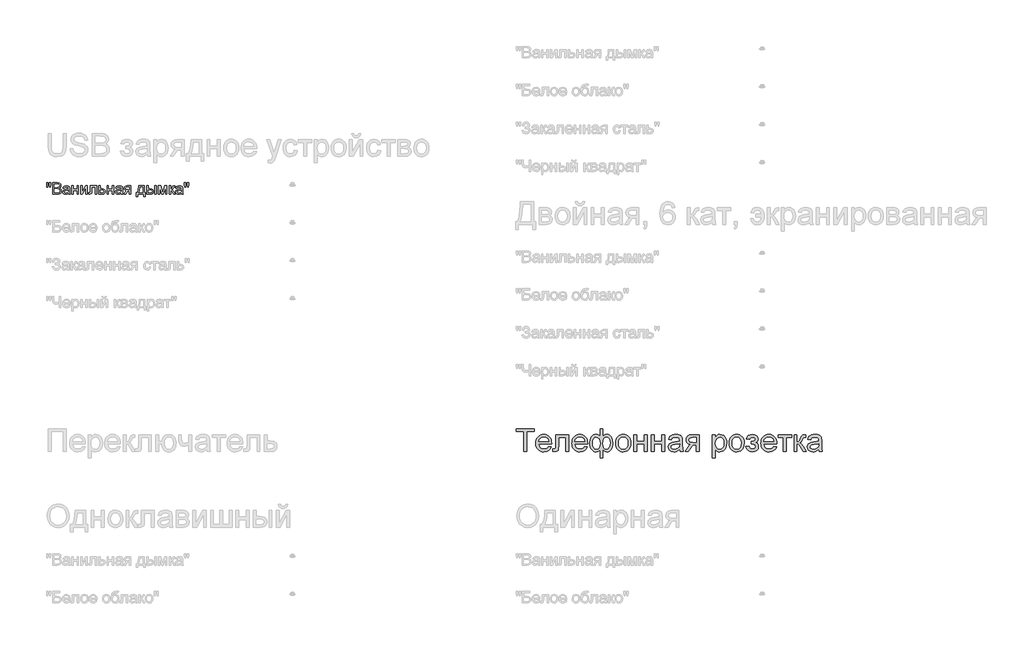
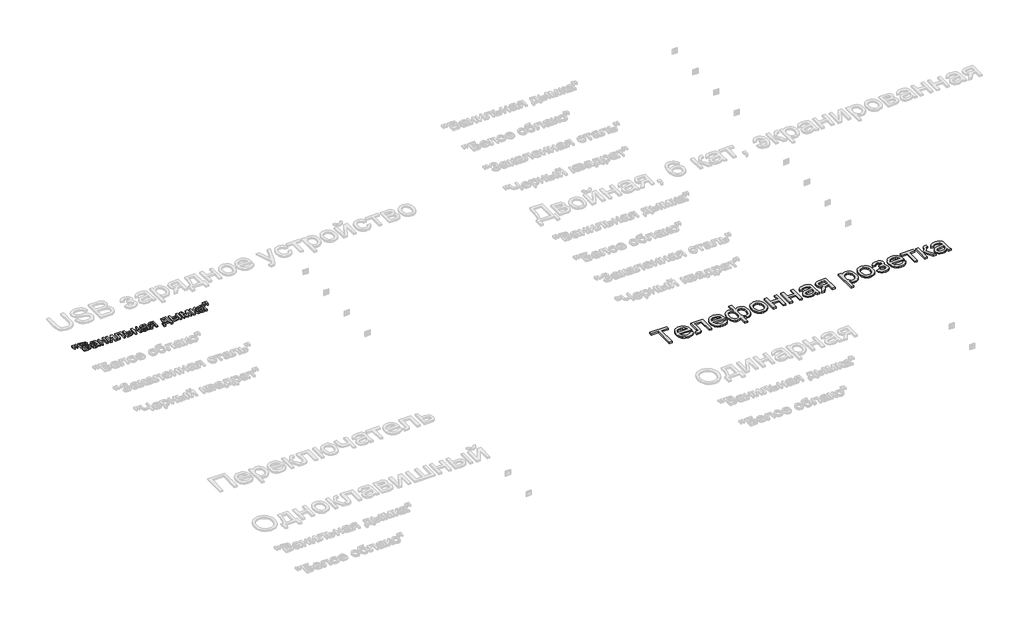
# One storey, part 145 of 168: 2 proxies.
"""IFC4 building model written with IfcOpenShell, lengths in millimetres."""

from ifc_helpers import new_model, si_unit, origin, origin_with_axes, place, context, project, spatial, polyline, outline, extrude, element, save

model = new_model("IFC4")

# Units and contexts
model_context = context("Model", 3, world=origin())
ifc_project = project(units=[si_unit("LENGTHUNIT", "METRE", prefix="MILLI")], contexts=[model_context])

# Site, building, storey
site = spatial("IfcSite", under=ifc_project)
building = spatial("IfcBuilding", under=site)
storey = spatial("IfcBuildingStorey", under=building, Name="Этаж 01", Elevation=0.0)

# Proxies
placement = place(None, origin())
element("IfcBuildingElementProxy", 1, Name="300 мм Arial 2", ObjectType="300 мм Arial 2", at=placement, inside=storey, context=model_context, shape_type="SweptSolid", body=[
    extrude(outline(polyline([(77374.4367343, -19848.4056816), (77374.4367343, -19584.7078674), (77275.550054, -19584.7078674), (77275.550054, -19547.0367511), (77510.9945309, -19547.0367511), (77510.9945309, -19584.7078674), (77412.1078506, -19584.7078674), (77412.1078506, -19848.4056816), (77374.4367343, -19848.4056816)])), origin_with_axes(), (0.0, 0.0, 1.0), 20.0),
    extrude(outline(polyline([(77703.6175436, -19782.481228), (77740.5528959, -19787.1901176), (77727.2447647, -19815.0203905), (77706.0087765, -19835.8241173), (77677.3231779, -19848.7919577), (77641.6662156, -19853.1145711), (77618.2919133, -19851.2498692), (77597.4651938, -19845.6557637), (77579.1860572, -19836.3322543), (77563.4545034, -19823.2793413), (77550.8039613, -19806.860308), (77541.7678598, -19787.4384379), (77536.3461989, -19765.0137311), (77534.5389786, -19739.5861874), (77536.364593, -19713.2964203), (77541.8414362, -19690.1244531), (77550.9695082, -19670.0702859), (77563.748809, -19653.1339185), (77579.4389761, -19639.6786346), (77597.2996469, -19630.0677174), (77617.3308216, -19624.3011672), (77639.5325, -19622.3789837), (77661.0191078, -19624.2965686), (77680.4501749, -19630.0493233), (77697.8257014, -19639.6372478), (77713.1456872, -19653.0603421), (77725.6513758, -19669.9599213), (77734.5840105, -19689.9773003), (77739.9435913, -19713.1124793), (77741.7301183, -19739.3654582), (77741.5093891, -19749.5190013), (77572.2100949, -19749.5190013), (77578.7308032, -19777.7171562), (77593.8783444, -19798.4473066), (77615.739732, -19811.1944178), (77642.4019796, -19815.4434548), (77662.4515483, -19813.4752861), (77679.3373319, -19807.5707801), (77693.0593303, -19797.3620547), (77703.6175436, -19782.481228)]), holes=[polyline([(77572.2100949, -19711.847885), (77704.0590019, -19711.847885), (77698.9638363, -19691.945469), (77688.9758401, -19677.7084358), (77667.013285, -19664.464684), (77639.3853472, -19660.0501), (77613.9922925, -19663.5725701), (77592.9954276, -19674.1399805), (77578.3997094, -19690.6118968), (77572.2100949, -19711.847885)])]), origin_with_axes(), (0.0, 0.0, 1.0), 20.0),
    extrude(outline(polyline([(77798.2367927, -19627.0878733), (77967.7568161, -19627.0878733), (77967.7568161, -19848.1849524), (77930.0856998, -19848.1849524), (77930.0856998, -19664.7589896), (77835.907909, -19664.7589896), (77835.907909, -19770.3411222), (77833.3695233, -19819.0486984), (77828.6146485, -19830.0759612), (77819.4267956, -19839.6133019), (77805.484068, -19846.2075866), (77786.4645689, -19848.4056816), (77755.8567869, -19846.4926952), (77755.8567869, -19810.7345653), (77772.7057822, -19810.7345653), (77789.7387186, -19808.4169087), (77796.5445355, -19801.0592688), (77798.2367927, -19768.2074066), (77798.2367927, -19627.0878733)])), origin_with_axes(), (0.0, 0.0, 1.0), 20.0),
    extrude(outline(polyline([(78179.2153869, -19782.481228), (78216.1507392, -19787.1901176), (78202.8426081, -19815.0203905), (78181.6066199, -19835.8241173), (78152.9210213, -19848.7919577), (78117.2640589, -19853.1145711), (78093.8897567, -19851.2498692), (78073.0630372, -19845.6557637), (78054.7839006, -19836.3322543), (78039.0523468, -19823.2793413), (78026.4018046, -19806.860308), (78017.3657031, -19787.4384379), (78011.9440422, -19765.0137311), (78010.1368219, -19739.5861874), (78011.9624363, -19713.2964203), (78017.4392795, -19690.1244531), (78026.5673515, -19670.0702859), (78039.3466524, -19653.1339185), (78055.0368194, -19639.6786346), (78072.8974903, -19630.0677174), (78092.928665, -19624.3011672), (78115.1303434, -19622.3789837), (78136.6169511, -19624.2965686), (78156.0480183, -19630.0493233), (78173.4235448, -19639.6372478), (78188.7435306, -19653.0603421), (78201.2492192, -19669.9599213), (78210.1818539, -19689.9773003), (78215.5414347, -19713.1124793), (78217.3279616, -19739.3654582), (78217.1072324, -19749.5190013), (78047.8079382, -19749.5190013), (78054.3286466, -19777.7171562), (78069.4761878, -19798.4473066), (78091.3375753, -19811.1944178), (78117.9998229, -19815.4434548), (78138.0493917, -19813.4752861), (78154.9351752, -19807.5707801), (78168.6571737, -19797.3620547), (78179.2153869, -19782.481228)]), holes=[polyline([(78047.8079382, -19711.847885), (78179.6568453, -19711.847885), (78174.5616797, -19691.945469), (78164.5736835, -19677.7084358), (78142.6111284, -19664.464684), (78114.9831906, -19660.0501), (78089.5901358, -19663.5725701), (78068.593271, -19674.1399805), (78053.9975528, -19690.6118968), (78047.8079382, -19711.847885)])]), origin_with_axes(), (0.0, 0.0, 1.0), 20.0),
    extrude(outline(polyline([(78382.1390955, -19547.0367511), (78419.8102118, -19547.0367511), (78419.8102118, -19648.3514526), (78431.2421448, -19636.9195196), (78443.7593297, -19628.8169186), (78457.3065841, -19623.9884675), (78471.8287259, -19622.3789837), (78489.2686317, -19624.4253273), (78504.8001497, -19630.5643581), (78518.4232798, -19640.7960761), (78530.1380221, -19655.1204813), (78539.5535019, -19672.5488908), (78546.2788447, -19692.0926218), (78551.6591188, -19737.5260482), (78550.2105835, -19762.1810397), (78545.8649774, -19784.3482292), (78538.6223006, -19804.0276166), (78528.4825531, -19821.2192021), (78516.190696, -19835.1734261), (78502.4916902, -19845.1407289), (78487.3855358, -19851.1211105), (78470.8722327, -19853.1145711), (78447.8428198, -19849.4357512), (78434.9853441, -19842.5747519), (78419.8102118, -19829.3493942), (78419.8102118, -19933.1656933), (78382.1390955, -19933.1656933), (78382.1390955, -19829.3493942), (78358.079613, -19847.1548828), (78329.6055465, -19853.1145711), (78313.2899801, -19851.2107818), (78298.0412714, -19845.4994138), (78283.8594204, -19835.9804672), (78270.7444273, -19822.6539419), (78259.7355586, -19805.7819539), (78251.872081, -19785.6266191), (78247.1539944, -19762.1879375), (78245.5812988, -19735.465909), (78251.2742727, -19691.3016755), (78258.3904901, -19672.1304251), (78268.3531944, -19654.8997521), (78280.7209272, -19640.6719159), (78295.0522302, -19630.5091758), (78311.3471033, -19624.4115318), (78329.6055465, -19622.3789837), (78344.9554228, -19623.9884675), (78358.7785888, -19628.8169186), (78371.1486209, -19636.9195196), (78382.1390955, -19648.3514526), (78382.1390955, -19547.0367511)]), holes=[polyline([(78283.2524152, -19734.6565687), (78287.0232056, -19771.6103151), (78298.335577, -19796.5343202), (78315.2397546, -19810.7161712), (78335.7859641, -19815.4434548), (78356.2310059, -19810.7437623), (78370.7715418, -19796.6446848), (78379.4627539, -19773.1462224), (78382.3598247, -19740.248375), (78379.3156011, -19705.1616297), (78370.1829306, -19680.0996688), (78354.9066308, -19665.0624922), (78333.4315193, -19660.0501), (78313.271586, -19664.9429306), (78297.231931, -19679.6214222), (78286.7472941, -19703.1658699), (78283.2524152, -19734.6565687)]), polyline([(78419.5894826, -19738.408965), (78422.7256766, -19776.5491309), (78432.1342586, -19799.7348936), (78446.2701243, -19811.5163145), (78463.5881692, -19815.4434548), (78482.9479592, -19810.6150036), (78499.2359345, -19796.1296501), (78510.2999855, -19771.4723593), (78513.9880025, -19736.1280966), (78510.5850941, -19702.6140469), (78500.3763687, -19678.8856582), (78484.8333544, -19664.7589896), (78465.4275792, -19660.0501), (78445.4423898, -19664.9521276), (78431.104189, -19679.6582104), (78422.4681592, -19704.1499542), (78419.5894826, -19738.408965)])]), origin_with_axes(), (0.0, 0.0, 1.0), 20.0),
    extrude(outline(polyline([(78589.3302351, -19737.7467774), (78591.3673817, -19709.0841715), (78597.4788213, -19684.385494), (78607.6645541, -19663.6507451), (78621.9245799, -19646.8799246), (78636.2811748, -19636.160763), (78652.1276917, -19628.504219), (78669.4641307, -19623.9102925), (78688.2904918, -19622.3789837), (78709.0735253, -19624.2436856), (78727.8653975, -19629.8377912), (78744.6661083, -19639.1613005), (78759.4756579, -19652.2142135), (78771.5628807, -19668.5550719), (78780.1966113, -19687.7424172), (78785.3768496, -19709.7762495), (78787.1035957, -19734.6565687), (78784.0501752, -19772.7139611), (78774.8899135, -19801.6846682), (78759.8895252, -19823.3805088), (78739.3157246, -19839.6133019), (78714.879163, -19849.7392538), (78688.2904918, -19853.1145711), (78667.2039557, -19851.256767), (78648.2373396, -19845.6833548), (78631.3906435, -19836.3943344), (78616.6638674, -19823.3897059), (78604.7054033, -19806.8901984), (78596.1636432, -19787.1165412), (78591.0385872, -19764.0687342), (78589.3302351, -19737.7467774)]), holes=[polyline([(78627.0013514, -19737.673201), (78631.3607531, -19771.7666649), (78644.438958, -19796.0560737), (78664.1206448, -19810.5966095), (78688.2904918, -19815.4434548), (78712.3499743, -19810.5690184), (78731.9948729, -19795.9457091), (78745.0730778, -19771.3344036), (78749.4324794, -19736.4959786), (78745.0454867, -19703.3957961), (78731.8845083, -19679.4374812), (78712.2120186, -19664.8969453), (78688.2904918, -19660.0501), (78664.1206448, -19664.8785512), (78644.438958, -19679.3639048), (78631.3607531, -19703.5981312), (78627.0013514, -19737.673201)])]), origin_with_axes(), (0.0, 0.0, 1.0), 20.0),
    extrude(outline(polyline([(78829.4836016, -19627.0878733), (78867.1547179, -19627.0878733), (78867.1547179, -19711.847885), (78966.0413982, -19711.847885), (78966.0413982, -19627.0878733), (79003.7125145, -19627.0878733), (79003.7125145, -19848.4056816), (78966.0413982, -19848.4056816), (78966.0413982, -19749.5190013), (78867.1547179, -19749.5190013), (78867.1547179, -19848.4056816), (78829.4836016, -19848.4056816), (78829.4836016, -19627.0878733)])), origin_with_axes(), (0.0, 0.0, 1.0), 20.0),
    extrude(outline(polyline([(79060.219189, -19627.0878733), (79097.8903053, -19627.0878733), (79097.8903053, -19711.847885), (79196.7769856, -19711.847885), (79196.7769856, -19627.0878733), (79234.4481019, -19627.0878733), (79234.4481019, -19848.4056816), (79196.7769856, -19848.4056816), (79196.7769856, -19749.5190013), (79097.8903053, -19749.5190013), (79097.8903053, -19848.4056816), (79060.219189, -19848.4056816), (79060.219189, -19627.0878733)])), origin_with_axes(), (0.0, 0.0, 1.0), 20.0),
    extrude(outline(polyline([(79432.2214625, -19820.1523443), (79414.2228359, -19835.584994), (79395.6907804, -19845.6833548), (79376.2022317, -19851.256767), (79355.3341255, -19853.1145711), (79323.8526238, -19848.6448049), (79300.6300728, -19835.2355061), (79286.3102662, -19814.8732377), (79281.5369973, -19789.5445623), (79283.339619, -19773.9279716), (79288.7474844, -19759.7461207), (79297.0892086, -19747.6060149), (79307.6934071, -19738.1146594), (79334.0705462, -19725.7538244), (79366.664891, -19720.0884417), (79405.1821358, -19714.1287533), (79432.0007333, -19707.1389954), (79432.2214625, -19698.7512859), (79429.6278944, -19681.9390788), (79421.8471902, -19670.9394071), (79404.4463719, -19662.7724268), (79380.2029484, -19660.0501), (79357.7621467, -19661.8619189), (79342.0903737, -19667.2973753), (79331.4034017, -19677.3497509), (79323.9170031, -19693.0123268), (79286.2458868, -19688.3034373), (79292.7849893, -19667.7020455), (79302.5430592, -19651.5152378), (79316.4306045, -19639.1360086), (79335.3581332, -19629.9573528), (79358.5071077, -19624.273576), (79385.0589907, -19622.3789837), (79410.5256218, -19624.0528468), (79430.7131463, -19629.074436), (79445.9342639, -19636.625214), (79456.5016742, -19645.8866432), (79463.5098262, -19657.3369703), (79468.0531688, -19671.4544419), (79469.8925788, -19704.4166687), (79469.8925788, -19751.2848348), (79471.8055652, -19816.7310418), (79479.3103579, -19848.4056816), (79441.6392416, -19848.4056816), (79432.2214625, -19820.1523443)]), holes=[polyline([(79432.2214625, -19744.8101117), (79371.4473569, -19756.3616064), (79339.0369531, -19762.4684475), (79324.3584615, -19772.4012614), (79319.2081136, -19786.895812), (79322.0132138, -19798.0978187), (79330.4285144, -19807.2764745), (79344.2700745, -19813.4017097), (79363.353953, -19815.4434548), (79383.5874627, -19813.1901776), (79401.4665277, -19806.4303459), (79415.9610783, -19796.4699409), (79426.041045, -19784.6149436), (79430.5108112, -19772.4012614), (79432.0007333, -19755.4786896), (79432.2214625, -19744.8101117)])]), origin_with_axes(), (0.0, 0.0, 1.0), 20.0),
    extrude(outline(polyline([(79691.2103871, -19627.0878733), (79691.2103871, -19848.4056816), (79653.5392708, -19848.4056816), (79653.5392708, -19763.6456699), (79633.0114555, -19763.6456699), (79605.0524238, -19768.4281358), (79593.8872053, -19778.8575904), (79578.7856494, -19800.5810222), (79548.7664786, -19848.4056816), (79505.2092503, -19848.4056816), (79543.0275194, -19787.9258816), (79559.729362, -19766.2208438), (79575.1068294, -19756.5823356), (79549.3550898, -19748.6912668), (79531.2552956, -19733.7000755), (79520.5499295, -19713.7608713), (79516.9814742, -19691.025764), (79521.8559106, -19665.2372362), (79536.4792199, -19644.8197854), (79560.3363673, -19631.5208513), (79592.912318, -19627.0878733), (79691.2103871, -19627.0878733)]), holes=[polyline([(79653.5392708, -19664.7589896), (79603.8752014, -19664.7589896), (79578.2246293, -19666.9386904), (79563.6656994, -19673.4777929), (79556.9058677, -19682.9415572), (79554.6525905, -19693.8952436), (79557.9727255, -19708.2518385), (79567.9331305, -19718.2122435), (79586.3364273, -19724.033976), (79614.9852377, -19725.9745536), (79653.5392708, -19725.9745536), (79653.5392708, -19664.7589896)])]), origin_with_axes(), (0.0, 0.0, 1.0), 20.0),
    extrude(outline(polyline([(79865.4393, -19933.1656933), (79865.4393, -19627.0878733), (79903.1104163, -19627.0878733), (79903.1104163, -19664.0232256), (79915.397675, -19645.8038698), (79929.1564616, -19632.7900442), (79945.1961166, -19624.9817488), (79964.3259803, -19622.3789837), (79989.8018085, -19626.0210155), (80012.0770633, -19636.9471107), (80030.2136457, -19654.4950819), (80043.2734565, -19678.0027414), (80051.1645253, -19705.7594379), (80053.7948815, -19736.0545202), (80050.8242344, -19768.271786), (80041.9122931, -19797.0861432), (80027.3441661, -19821.0352611), (80007.4049619, -19838.6568087), (79984.182411, -19849.5001305), (79959.7642436, -19853.1145711), (79942.4461987, -19850.695747), (79926.9859578, -19843.4392746), (79913.751403, -19832.4855882), (79903.1104163, -19818.975122), (79903.1104163, -19933.1656933), (79865.4393, -19933.1656933)]), holes=[polyline([(79903.1104163, -19739.512611), (79907.1847094, -19773.2841782), (79919.4075887, -19796.9022022), (79937.4430035, -19810.8081417), (79958.9549032, -19815.4434548), (79980.8162907, -19810.6425948), (79999.3115581, -19796.2400147), (80011.9207134, -19771.7574679), (80016.1237652, -19736.7167078), (80012.021881, -19703.1290817), (79999.7162283, -19679.1799638), (79981.7084046, -19664.832566), (79960.5000076, -19660.0501), (79939.2088371, -19665.1360686), (79920.5112347, -19680.3939744), (79907.4606209, -19705.3455707), (79903.1104163, -19739.512611)])]), origin_with_axes(), (0.0, 0.0, 1.0), 20.0),
    extrude(outline(polyline([(80086.7571083, -19737.7467774), (80088.7942549, -19709.0841715), (80094.9056945, -19684.385494), (80105.0914272, -19663.6507451), (80119.3514531, -19646.8799246), (80133.7080479, -19636.160763), (80149.5545649, -19628.504219), (80166.8910039, -19623.9102925), (80185.717365, -19622.3789837), (80206.5003985, -19624.2436856), (80225.2922706, -19629.8377912), (80242.0929815, -19639.1613005), (80256.9025311, -19652.2142135), (80268.9897539, -19668.5550719), (80277.6234845, -19687.7424172), (80282.8037228, -19709.7762495), (80284.5304689, -19734.6565687), (80281.4770484, -19772.7139611), (80272.3167867, -19801.6846682), (80257.3163983, -19823.3805088), (80236.7425977, -19839.6133019), (80212.3060362, -19849.7392538), (80185.717365, -19853.1145711), (80164.6308289, -19851.256767), (80145.6642128, -19845.6833548), (80128.8175167, -19836.3943344), (80114.0907406, -19823.3897059), (80102.1322764, -19806.8901984), (80093.5905164, -19787.1165412), (80088.4654603, -19764.0687342), (80086.7571083, -19737.7467774)]), holes=[polyline([(80124.4282246, -19737.673201), (80128.7876263, -19771.7666649), (80141.8658312, -19796.0560737), (80161.5475179, -19810.5966095), (80185.717365, -19815.4434548), (80209.7768475, -19810.5690184), (80229.421746, -19795.9457091), (80242.499951, -19771.3344036), (80246.8593526, -19736.4959786), (80242.4723598, -19703.3957961), (80229.3113814, -19679.4374812), (80209.6388917, -19664.8969453), (80185.717365, -19660.0501), (80161.5475179, -19664.8785512), (80141.8658312, -19679.3639048), (80128.7876263, -19703.5981312), (80124.4282246, -19737.673201)])]), origin_with_axes(), (0.0, 0.0, 1.0), 20.0),
    extrude(outline(polyline([(80378.7082597, -19749.5190013), (80378.7082597, -19711.847885), (80408.4331249, -19710.376357), (80423.4427103, -19702.5404705), (80428.740211, -19695.1920276), (80430.5060446, -19686.1697217), (80428.1424028, -19675.4551586), (80421.0514773, -19667.1502225), (80410.2265496, -19661.8251307), (80396.660901, -19660.0501), (80382.9480997, -19661.8159336), (80371.4609844, -19667.1134343), (80362.1995551, -19675.9426022), (80355.163812, -19688.3034373), (80312.7838061, -19683.5945477), (80324.0226011, -19656.8127385), (80341.1107198, -19637.6828747), (80364.0481622, -19626.2049565), (80392.8349283, -19622.3789837), (80424.3256271, -19627.041888), (80448.1643804, -19641.0306009), (80463.1739658, -19661.4940369), (80468.1771609, -19685.5811105), (80466.3975318, -19697.9419455), (80461.0586443, -19708.9784054), (80452.1604985, -19718.6904901), (80439.7030945, -19727.0781996), (80454.2436303, -19737.5444423), (80464.6087056, -19750.5490709), (80470.8167142, -19766.1288733), (80472.8860504, -19784.320638), (80467.634535, -19812.0497434), (80451.8799885, -19834.0214956), (80426.6892689, -19848.3413022), (80393.1292339, -19853.1145711), (80360.3049629, -19848.6999872), (80335.1878197, -19835.4562353), (80317.7778042, -19813.3833156), (80308.0749166, -19782.481228), (80350.4549225, -19777.7723385), (80356.8008869, -19793.7016289), (80367.4510706, -19805.5842173), (80381.173069, -19812.9786454), (80396.7344774, -19815.4434548), (80411.8912156, -19813.079813), (80424.2520507, -19805.9888875), (80432.4742133, -19795.2191421), (80435.2149341, -19781.8190404), (80433.5134799, -19771.2056449), (80428.4091172, -19762.0269891), (80413.9145666, -19751.4319876), (80386.0658996, -19749.2982721), (80378.7082597, -19749.5190013)])), origin_with_axes(), (0.0, 0.0, 1.0), 20.0),
    extrude(outline(polyline([(80674.9268422, -19782.481228), (80711.8621945, -19787.1901176), (80698.5540633, -19815.0203905), (80677.3180752, -19835.8241173), (80648.6324766, -19848.7919577), (80612.9755142, -19853.1145711), (80589.6012119, -19851.2498692), (80568.7744925, -19845.6557637), (80550.4953559, -19836.3322543), (80534.763802, -19823.2793413), (80522.1132599, -19806.860308), (80513.0771584, -19787.4384379), (80507.6554975, -19765.0137311), (80505.8482772, -19739.5861874), (80507.6738916, -19713.2964203), (80513.1507348, -19690.1244531), (80522.2788068, -19670.0702859), (80535.0581076, -19653.1339185), (80550.7482747, -19639.6786346), (80568.6089456, -19630.0677174), (80588.6401202, -19624.3011672), (80610.8417986, -19622.3789837), (80632.3284064, -19624.2965686), (80651.7594736, -19630.0493233), (80669.135, -19639.6372478), (80684.4549859, -19653.0603421), (80696.9606744, -19669.9599213), (80705.8933091, -19689.9773003), (80711.25289, -19713.1124793), (80713.0394169, -19739.3654582), (80712.8186877, -19749.5190013), (80543.5193935, -19749.5190013), (80550.0401019, -19777.7171562), (80565.187643, -19798.4473066), (80587.0490306, -19811.1944178), (80613.7112782, -19815.4434548), (80633.7608469, -19813.4752861), (80650.6466305, -19807.5707801), (80664.3686289, -19797.3620547), (80674.9268422, -19782.481228)]), holes=[polyline([(80543.5193935, -19711.847885), (80675.3683006, -19711.847885), (80670.273135, -19691.945469), (80660.2851388, -19677.7084358), (80638.3225837, -19664.464684), (80610.6946458, -19660.0501), (80585.3015911, -19663.5725701), (80564.3047262, -19674.1399805), (80549.7090081, -19690.6118968), (80543.5193935, -19711.847885)])]), origin_with_axes(), (0.0, 0.0, 1.0), 20.0),
    extrude(outline(polyline([(80731.8749751, -19627.0878733), (80910.8127775, -19627.0878733), (80910.8127775, -19664.7589896), (80840.1794344, -19664.7589896), (80840.1794344, -19848.4056816), (80802.5083181, -19848.4056816), (80802.5083181, -19664.7589896), (80731.8749751, -19664.7589896), (80731.8749751, -19627.0878733)])), origin_with_axes(), (0.0, 0.0, 1.0), 20.0),
    extrude(outline(polyline([(80943.7750043, -19627.0878733), (80981.4461206, -19627.0878733), (80981.4461206, -19721.265664), (80996.7684057, -19719.5734069), (81006.6828254, -19714.4966353), (81015.456811, -19701.2528835), (81027.3577936, -19675.0596854), (81044.5378828, -19641.0306009), (81059.694621, -19629.9573528), (81087.2489824, -19627.0878733), (81094.4594695, -19627.0878733), (81094.4594695, -19664.9797188), (81084.3059264, -19664.7589896), (81065.9118267, -19668.7321151), (81052.9623804, -19693.5273616), (81037.768854, -19720.345959), (81016.4684865, -19733.4793463), (81028.4062573, -19738.7814455), (81040.2336634, -19748.1394438), (81063.5573819, -19779.0231373), (81103.8772486, -19848.4056816), (81061.0557843, -19848.4056816), (81021.5452581, -19780.4946653), (81001.6796303, -19751.7630814), (80992.3906099, -19746.5483542), (80981.4461206, -19744.8101117), (80981.4461206, -19848.4056816), (80943.7750043, -19848.4056816), (80943.7750043, -19627.0878733)])), origin_with_axes(), (0.0, 0.0, 1.0), 20.0),
    extrude(outline(polyline([(81268.6883824, -19820.1523443), (81250.6897558, -19835.584994), (81232.1577003, -19845.6833548), (81212.6691516, -19851.256767), (81191.8010454, -19853.1145711), (81160.3195437, -19848.6448049), (81137.0969927, -19835.2355061), (81122.7771861, -19814.8732377), (81118.0039172, -19789.5445623), (81119.806539, -19773.9279716), (81125.2144043, -19759.7461207), (81133.5561285, -19747.6060149), (81144.160327, -19738.1146594), (81170.5374661, -19725.7538244), (81203.1318109, -19720.0884417), (81241.6490558, -19714.1287533), (81268.4676532, -19707.1389954), (81268.6883824, -19698.7512859), (81266.0948143, -19681.9390788), (81258.3141101, -19670.9394071), (81240.9132918, -19662.7724268), (81216.6698683, -19660.0501), (81194.2290666, -19661.8619189), (81178.5572936, -19667.2973753), (81167.8703216, -19677.3497509), (81160.383923, -19693.0123268), (81122.7128067, -19688.3034373), (81129.2519092, -19667.7020455), (81139.0099791, -19651.5152378), (81152.8975244, -19639.1360086), (81171.8250531, -19629.9573528), (81194.9740276, -19624.273576), (81221.5259106, -19622.3789837), (81246.9925417, -19624.0528468), (81267.1800662, -19629.074436), (81282.4011838, -19636.625214), (81292.9685941, -19645.8866432), (81299.9767461, -19657.3369703), (81304.5200887, -19671.4544419), (81306.3594987, -19704.4166687), (81306.3594987, -19751.2848348), (81308.2724851, -19816.7310418), (81315.7772778, -19848.4056816), (81278.1061615, -19848.4056816), (81268.6883824, -19820.1523443)]), holes=[polyline([(81268.6883824, -19744.8101117), (81207.9142768, -19756.3616064), (81175.503873, -19762.4684475), (81160.8253814, -19772.4012614), (81155.6750335, -19786.895812), (81158.4801337, -19798.0978187), (81166.8954343, -19807.2764745), (81180.7369944, -19813.4017097), (81199.8208729, -19815.4434548), (81220.0543827, -19813.1901776), (81237.9334476, -19806.4303459), (81252.4279982, -19796.4699409), (81262.5079649, -19784.6149436), (81266.9777311, -19772.4012614), (81268.4676532, -19755.4786896), (81268.6883824, -19744.8101117)])]), origin_with_axes(), (0.0, 0.0, 1.0), 20.0),
])
element("IfcBuildingElementProxy", 2, Name="150", ObjectType="150", at=placement, inside=storey, context=model_context, shape_type="SweptSolid", body=[
    extrude(outline(polyline([(71080.1485789, -16351.873446), (71075.550054, -16322.7739802), (71075.550054, -16297.7212163), (71094.3856121, -16297.7212163), (71094.3856121, -16322.7739802), (71090.2653338, -16351.873446), (71080.1485789, -16351.873446)])), origin_with_axes(), (0.0, 0.0, 1.0), 20.0),
    extrude(outline(polyline([(71117.7093306, -16351.873446), (71113.2211703, -16322.7739802), (71113.2211703, -16297.7212163), (71132.0567284, -16297.7212163), (71132.0567284, -16322.7739802), (71127.6421445, -16351.873446), (71117.7093306, -16351.873446)])), origin_with_axes(), (0.0, 0.0, 1.0), 20.0),
    extrude(outline(polyline([(71157.9556209, -16448.4056816), (71157.9556209, -16297.7212163), (71215.4555767, -16297.7212163), (71243.6169435, -16302.1541944), (71253.0807078, -16307.7781904), (71260.2452096, -16315.7842223), (71266.2600803, -16335.0612389), (71261.2017028, -16352.6643923), (71245.9162059, -16366.0001146), (71256.5893823, -16371.5735269), (71264.4758526, -16380.0532069), (71269.3456905, -16390.8781346), (71270.9689698, -16403.48729), (71266.5359918, -16423.7391938), (71255.5547142, -16438.160168), (71239.1655713, -16445.8121135), (71215.0141183, -16448.4056816), (71157.9556209, -16448.4056816)]), holes=[polyline([(71176.791179, -16358.9367803), (71211.1881456, -16358.9367803), (71231.2745025, -16357.3180996), (71243.3594261, -16350.3467358), (71247.4245221, -16338.0778712), (71243.6353376, -16325.7906126), (71232.7828187, -16318.5249432), (71208.5761834, -16316.5567745), (71176.791179, -16316.5567745), (71176.791179, -16358.9367803)]), polyline([(71176.791179, -16429.5701234), (71215.4187885, -16429.5701234), (71229.3983043, -16428.8343594), (71241.2257105, -16424.7324752), (71249.061597, -16416.3631598), (71252.1334117, -16403.671231), (71248.5281681, -16389.0295275), (71236.8479148, -16380.2923302), (71213.5793786, -16377.7723385), (71176.791179, -16377.7723385), (71176.791179, -16429.5701234)])]), origin_with_axes(), (0.0, 0.0, 1.0), 20.0),
    extrude(outline(polyline([(71365.1467606, -16434.279013), (71346.8814195, -16447.0445182), (71326.7030921, -16450.7601263), (71310.9623412, -16448.5252432), (71299.3510657, -16441.8205939), (71292.1911624, -16431.6394596), (71289.804528, -16418.975122), (71293.4097715, -16404.0759012), (71302.8827329, -16393.2601705), (71316.0713024, -16387.079753), (71332.3684748, -16384.2470616), (71365.036396, -16377.7723385), (71365.1467606, -16373.5784838), (71363.8499765, -16365.1723802), (71359.9596244, -16359.6725443), (71351.2592153, -16355.5890542), (71339.1375035, -16354.2278908), (71320.0812162, -16357.8515285), (71310.9945309, -16370.7090042), (71292.1589727, -16368.3545594), (71300.3075589, -16349.9604597), (71316.7150959, -16339.1815172), (71341.5655247, -16335.3923327), (71364.3926025, -16338.7400588), (71377.2868664, -16347.1461624), (71383.0626137, -16359.9300617), (71383.9823187, -16376.4111751), (71383.9823187, -16399.8452582), (71384.9388119, -16432.5683617), (71388.6912083, -16448.4056816), (71369.8556501, -16448.4056816), (71365.1467606, -16434.279013)]), holes=[polyline([(71365.1467606, -16396.6078966), (71334.7597078, -16402.383644), (71318.5545059, -16405.4370645), (71311.2152601, -16410.4034715), (71308.6400861, -16417.6507468), (71314.2502865, -16427.841078), (71330.7130058, -16431.9245682), (71349.7692932, -16427.4180137), (71362.0565518, -16416.5103126), (71365.036396, -16401.9421856), (71365.1467606, -16396.6078966)])]), origin_with_axes(), (0.0, 0.0, 1.0), 20.0),
    extrude(outline(polyline([(71409.8812112, -16337.7467774), (71428.7167693, -16337.7467774), (71428.7167693, -16380.1267833), (71478.1601095, -16380.1267833), (71478.1601095, -16337.7467774), (71496.9956676, -16337.7467774), (71496.9956676, -16448.4056816), (71478.1601095, -16448.4056816), (71478.1601095, -16398.9623414), (71428.7167693, -16398.9623414), (71428.7167693, -16448.4056816), (71409.8812112, -16448.4056816), (71409.8812112, -16337.7467774)])), origin_with_axes(), (0.0, 0.0, 1.0), 20.0),
    extrude(outline(polyline([(71525.2490049, -16337.7467774), (71544.084563, -16337.7467774), (71544.084563, -16422.1389071), (71590.364118, -16337.7467774), (71614.7179061, -16337.7467774), (71614.7179061, -16448.4056816), (71595.8823479, -16448.4056816), (71595.8823479, -16364.5285867), (71549.8970985, -16448.4056816), (71525.2490049, -16448.4056816), (71525.2490049, -16337.7467774)])), origin_with_axes(), (0.0, 0.0, 1.0), 20.0),
    extrude(outline(polyline([(71652.3890224, -16337.7467774), (71737.1490341, -16337.7467774), (71737.1490341, -16448.295317), (71718.3134759, -16448.295317), (71718.3134759, -16356.5823356), (71671.2245806, -16356.5823356), (71671.2245806, -16409.3734019), (71669.9553877, -16433.72719), (71662.9840239, -16444.0094917), (71646.5029105, -16448.4056816), (71631.1990195, -16447.4491884), (71631.1990195, -16429.5701234), (71639.6235172, -16429.5701234), (71648.1399854, -16428.4112951), (71651.5428938, -16424.7324752), (71652.3890224, -16408.3065441), (71652.3890224, -16337.7467774)])), origin_with_axes(), (0.0, 0.0, 1.0), 20.0),
    extrude(outline(polyline([(71765.4023713, -16337.7467774), (71784.2379295, -16337.7467774), (71784.2379295, -16377.7723385), (71805.9429672, -16377.7723385), (71824.7601312, -16380.1313818), (71838.6844648, -16387.2085117), (71847.2929034, -16398.433511), (71850.162383, -16413.2361628), (71847.7205663, -16426.7144394), (71840.395116, -16438.0865916), (71827.6985887, -16445.8259091), (71809.1435405, -16448.4056816), (71765.4023713, -16448.4056816), (71765.4023713, -16337.7467774)]), holes=[polyline([(71784.2379295, -16429.5701234), (71801.8226888, -16429.5701234), (71824.539402, -16425.615392), (71829.6299692, -16420.552416), (71831.3268249, -16413.272951), (71826.3052356, -16401.6846682), (71818.2348244, -16397.8770895), (71804.066769, -16396.6078966), (71784.2379295, -16396.6078966), (71784.2379295, -16429.5701234)])]), origin_with_axes(), (0.0, 0.0, 1.0), 20.0),
    extrude(outline(polyline([(71873.7068307, -16337.7467774), (71892.5423889, -16337.7467774), (71892.5423889, -16380.1267833), (71941.985729, -16380.1267833), (71941.985729, -16337.7467774), (71960.8212872, -16337.7467774), (71960.8212872, -16448.4056816), (71941.985729, -16448.4056816), (71941.985729, -16398.9623414), (71892.5423889, -16398.9623414), (71892.5423889, -16448.4056816), (71873.7068307, -16448.4056816), (71873.7068307, -16337.7467774)])), origin_with_axes(), (0.0, 0.0, 1.0), 20.0),
    extrude(outline(polyline([(72059.7079675, -16434.279013), (72041.4426264, -16447.0445182), (72021.264299, -16450.7601263), (72005.5235481, -16448.5252432), (71993.9122726, -16441.8205939), (71986.7523693, -16431.6394596), (71984.3657349, -16418.975122), (71987.9709784, -16404.0759012), (71997.4439398, -16393.2601705), (72010.6325093, -16387.079753), (72026.9296817, -16384.2470616), (72059.5976029, -16377.7723385), (72059.7079675, -16373.5784838), (72058.4111834, -16365.1723802), (72054.5208313, -16359.6725443), (72045.8204221, -16355.5890542), (72033.6987104, -16354.2278908), (72014.6424231, -16357.8515285), (72005.5557378, -16370.7090042), (71986.7201796, -16368.3545594), (71994.8687658, -16349.9604597), (72011.2763028, -16339.1815172), (72036.1267316, -16335.3923327), (72058.9538094, -16338.7400588), (72071.8480733, -16347.1461624), (72077.6238206, -16359.9300617), (72078.5435256, -16376.4111751), (72078.5435256, -16399.8452582), (72079.5000188, -16432.5683617), (72083.2524152, -16448.4056816), (72064.416857, -16448.4056816), (72059.7079675, -16434.279013)]), holes=[polyline([(72059.7079675, -16396.6078966), (72029.3209147, -16402.383644), (72013.1157128, -16405.4370645), (72005.776467, -16410.4034715), (72003.201293, -16417.6507468), (72008.8114934, -16427.841078), (72025.2742127, -16431.9245682), (72044.3305001, -16427.4180137), (72056.6177587, -16416.5103126), (72059.5976029, -16401.9421856), (72059.7079675, -16396.6078966)])]), origin_with_axes(), (0.0, 0.0, 1.0), 20.0),
    extrude(outline(polyline([(72189.2024298, -16337.7467774), (72189.2024298, -16448.4056816), (72170.3668716, -16448.4056816), (72170.3668716, -16406.0256757), (72160.1029639, -16406.0256757), (72146.1234481, -16408.4169087), (72132.9900609, -16424.4933519), (72117.9804755, -16448.4056816), (72096.2018614, -16448.4056816), (72115.1109959, -16418.1657816), (72123.4619172, -16407.3132627), (72131.1506509, -16402.4940086), (72118.2747811, -16398.5484742), (72109.224884, -16391.0528785), (72103.872201, -16381.0832765), (72102.0879733, -16369.7157228), (72104.5251915, -16356.8214589), (72111.8368462, -16346.6127335), (72123.7654199, -16339.9632664), (72140.0533952, -16337.7467774), (72189.2024298, -16337.7467774)]), holes=[polyline([(72170.3668716, -16356.5823356), (72145.5348369, -16356.5823356), (72132.7095509, -16357.672186), (72125.4300859, -16360.9417372), (72120.9235315, -16371.1504626), (72122.583599, -16378.32876), (72127.5638015, -16383.3089625), (72151.0898551, -16387.1901176), (72170.3668716, -16387.1901176), (72170.3668716, -16356.5823356)])]), origin_with_axes(), (0.0, 0.0, 1.0), 20.0),
    extrude(outline(polyline([(72292.7979996, -16337.7467774), (72363.4313427, -16337.7467774), (72363.4313427, -16429.5701234), (72377.5580113, -16429.5701234), (72377.5580113, -16479.0134636), (72358.7224531, -16479.0134636), (72358.7224531, -16448.4056816), (72281.0257758, -16448.4056816), (72281.0257758, -16479.0134636), (72262.1902176, -16479.0134636), (72262.1902176, -16429.5701234), (72273.9624415, -16429.5701234), (72282.5202964, -16414.105284), (72288.5121744, -16393.6464466), (72292.7979996, -16337.7467774)]), holes=[polyline([(72309.279113, -16356.5823356), (72304.864529, -16399.4957703), (72295.1524444, -16429.5701234), (72344.5957845, -16429.5701234), (72344.5957845, -16356.5823356), (72309.279113, -16356.5823356)])]), origin_with_axes(), (0.0, 0.0, 1.0), 20.0),
    extrude(outline(polyline([(72502.3435841, -16337.7467774), (72521.1791422, -16337.7467774), (72521.1791422, -16448.4056816), (72502.3435841, -16448.4056816), (72502.3435841, -16337.7467774)])), origin_with_axes(), (0.0, 0.0, 1.0), 20.0),
    extrude(outline(polyline([(72398.7480142, -16337.7467774), (72417.5835724, -16337.7467774), (72417.5835724, -16377.7723385), (72440.8705027, -16377.7723385), (72460.9982463, -16380.1313818), (72475.9112627, -16387.2085117), (72485.1405023, -16398.433511), (72488.2169154, -16413.2361628), (72485.637143, -16426.7144394), (72477.8978255, -16438.0865916), (72464.4931253, -16445.8259091), (72444.9172046, -16448.4056816), (72398.7480142, -16448.4056816), (72398.7480142, -16337.7467774)]), holes=[polyline([(72417.5835724, -16429.5701234), (72436.9341653, -16429.5701234), (72461.9133528, -16425.615392), (72467.5143562, -16420.552416), (72469.3813573, -16413.272951), (72463.8447333, -16401.6846682), (72454.9649816, -16397.8770895), (72439.3989747, -16396.6078966), (72417.5835724, -16396.6078966), (72417.5835724, -16429.5701234)])]), origin_with_axes(), (0.0, 0.0, 1.0), 20.0),
    extrude(outline(polyline([(72549.4324794, -16337.7467774), (72581.8428832, -16337.7467774), (72606.8220707, -16426.3327619), (72633.7510327, -16337.7467774), (72664.8002731, -16337.7467774), (72664.8002731, -16448.4056816), (72645.964715, -16448.4056816), (72645.964715, -16359.3046623), (72618.8886001, -16448.4056816), (72594.1669301, -16448.4056816), (72568.2680376, -16355.0372312), (72568.2680376, -16448.4056816), (72549.4324794, -16448.4056816), (72549.4324794, -16337.7467774)])), origin_with_axes(), (0.0, 0.0, 1.0), 20.0),
    extrude(outline(polyline([(72693.0536104, -16337.7467774), (72711.8891685, -16337.7467774), (72711.8891685, -16384.8356728), (72724.5075209, -16381.4511584), (72734.845005, -16361.7326835), (72743.4350496, -16344.7181412), (72751.0134187, -16339.1815172), (72764.7905994, -16337.7467774), (72768.395843, -16337.7467774), (72768.395843, -16356.6927002), (72763.3190714, -16356.5823356), (72754.1220216, -16358.5688983), (72747.6472984, -16370.9665216), (72740.0505352, -16384.3758203), (72729.4003515, -16390.9425139), (72741.2829399, -16398.2725627), (72752.9447992, -16413.7144094), (72773.1047325, -16448.4056816), (72751.6940004, -16448.4056816), (72731.9387373, -16414.4501734), (72722.0059234, -16400.0843815), (72711.8891685, -16396.6078966), (72711.8891685, -16448.4056816), (72693.0536104, -16448.4056816), (72693.0536104, -16337.7467774)])), origin_with_axes(), (0.0, 0.0, 1.0), 20.0),
    extrude(outline(polyline([(72855.5102994, -16434.279013), (72837.2449584, -16447.0445182), (72817.0666309, -16450.7601263), (72801.3258801, -16448.5252432), (72789.7146046, -16441.8205939), (72782.5547013, -16431.6394596), (72780.1680668, -16418.975122), (72783.7733104, -16404.0759012), (72793.2462717, -16393.2601705), (72806.4348413, -16387.079753), (72822.7320137, -16384.2470616), (72855.3999348, -16377.7723385), (72855.5102994, -16373.5784838), (72854.2135154, -16365.1723802), (72850.3231633, -16359.6725443), (72841.6227541, -16355.5890542), (72829.5010424, -16354.2278908), (72810.444755, -16357.8515285), (72801.3580697, -16370.7090042), (72782.5225116, -16368.3545594), (72790.6710978, -16349.9604597), (72807.0786348, -16339.1815172), (72831.9290635, -16335.3923327), (72854.7561413, -16338.7400588), (72867.6504053, -16347.1461624), (72873.4261526, -16359.9300617), (72874.3458576, -16376.4111751), (72874.3458576, -16399.8452582), (72875.3023508, -16432.5683617), (72879.0547471, -16448.4056816), (72860.219189, -16448.4056816), (72855.5102994, -16434.279013)]), holes=[polyline([(72855.5102994, -16396.6078966), (72825.1232466, -16402.383644), (72808.9180447, -16405.4370645), (72801.5787989, -16410.4034715), (72799.003625, -16417.6507468), (72804.6138254, -16427.841078), (72821.0765447, -16431.9245682), (72840.132832, -16427.4180137), (72852.4200907, -16416.5103126), (72855.3999348, -16401.9421856), (72855.5102994, -16396.6078966)])]), origin_with_axes(), (0.0, 0.0, 1.0), 20.0),
    extrude(outline(polyline([(72900.1343854, -16351.873446), (72895.5358605, -16322.7739802), (72895.5358605, -16297.7212163), (72914.3714187, -16297.7212163), (72914.3714187, -16322.7739802), (72910.2511403, -16351.873446), (72900.1343854, -16351.873446)])), origin_with_axes(), (0.0, 0.0, 1.0), 20.0),
    extrude(outline(polyline([(72937.6951372, -16351.873446), (72933.2069768, -16322.7739802), (72933.2069768, -16297.7212163), (72952.042535, -16297.7212163), (72952.042535, -16322.7739802), (72947.627951, -16351.873446), (72937.6951372, -16351.873446)])), origin_with_axes(), (0.0, 0.0, 1.0), 20.0),
])

save(model, "model.ifc")
